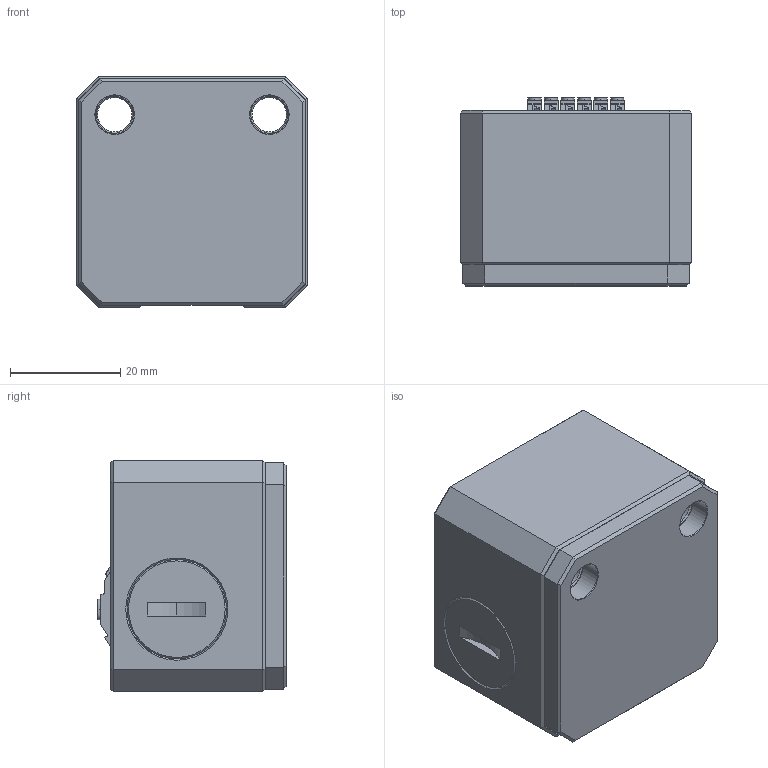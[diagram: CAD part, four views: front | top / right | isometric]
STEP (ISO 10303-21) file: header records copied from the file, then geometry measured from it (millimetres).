
FILE_DESCRIPTION (( 'STEP AP214' ), '1' );
FILE_NAME ('UM064242.STEP', '2013-06-27T10:37:12', ( '' ), ( '' ), 'SwSTEP 2.0', 'SolidWorks 2011', '' );
FILE_SCHEMA (( 'AUTOMOTIVE_DESIGN' ));
Length unit declared in the file: millimetre
Products named in the file (11): BOLA2,5-UM; Casquillo BOLAS-UM; Iman 6x3-UM; Esparrago DIN914 M5x10; UM064242; 8UM064141; RR-UM; casquillo UM; 9EM061842; Muelle-UM comprimido; 8UM064242_Default
Assembly tree (21 placements, depth 3):
  UM064242
    RR-UM  x6
    casquillo UM  x6
      Muelle-UM comprimido
      Casquillo BOLAS-UM
      BOLA2,5-UM
    8UM064242_Default
    Esparrago DIN914 M5x10  x2
    8UM064141
    9EM061842
    Iman 6x3-UM
Bounding box: 42 x 34.1 x 42 mm (x, y, z)
Volume: 46970.6 mm3; surface area: 25973.4 mm2
Topology: 30 solids, 30 shells, 1829 faces, 4817 edges, 3128 vertices
Faces by surface type: plane 745, bspline 486, cylinder 406, cone 144, torus 36, sphere 12
Entity records: 20971 total; most frequent: CARTESIAN_POINT 9917, ORIENTED_EDGE 2270, DIRECTION 1990, EDGE_CURVE 1135, VERTEX_POINT 723, AXIS2_PLACEMENT_3D 664, LINE 662, VECTOR 662
